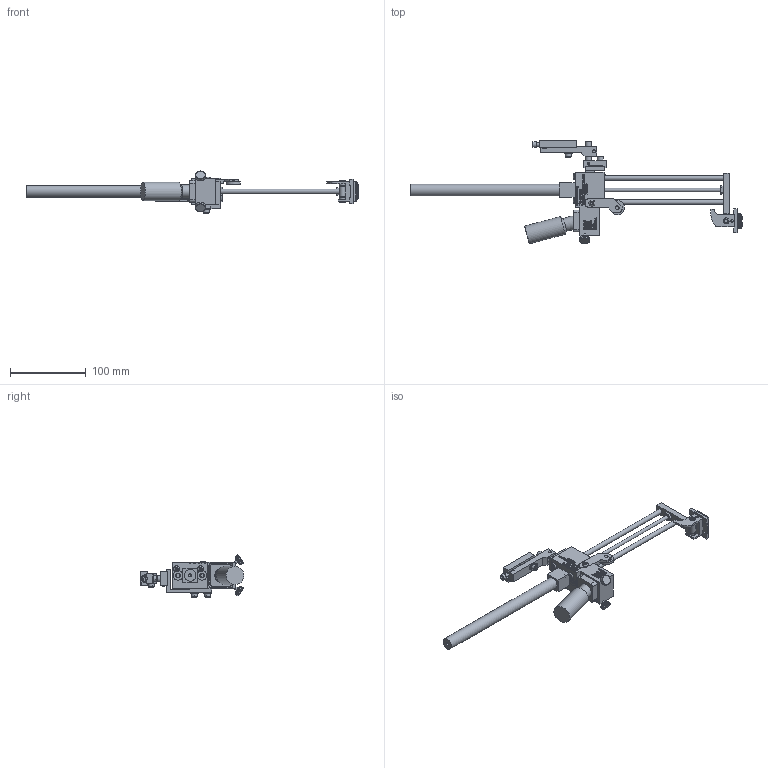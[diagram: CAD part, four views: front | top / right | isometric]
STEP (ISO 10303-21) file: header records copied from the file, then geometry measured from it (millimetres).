
FILE_DESCRIPTION((''),'2;1');
FILE_NAME('C:\Documents and Settings\Ron\My Documents\Inventor\Sprinter Drawing\Machines in Inventor\Model 88\Type\Ext Str\E4\Brkt\Ext\Model 88 ES 4 ext w brkt mod 2012.stp','2012-03-16T14:10:14',('Ron'),(''),'Autodesk Inventor 2011','Autodesk Inventor 2011','');
FILE_SCHEMA(('AUTOMOTIVE_DESIGN { 1 0 10303 214 1 1 1 1 }'));
Length unit declared in the file: inch
Products named in the file (43): Model 88  ES 4  ext w brkt mod 2012; 88 Frame Body; 66 Linear Bearing; Hexagon Socket Button Head Cap Screw - Inch 8 - 32 x 1/4; Hexagon Socket Head Cap Screw - Inch No. 8 - 32 UNC - 1 1/2; 10 Ink Resevior Lock Screw; INK RESERVOIR ASSY; 88 RESERVOIR; 88 Ink Pad; 66 INK BOTTLE; 88 STD Wheel Bractet Assy (prototype); 44 Wheel Retainer; 44 Cam Wheel; 88 Wheel Bracket Arm (prototype); Hexagon Socket Set Screw - Flat Point - Inch 4-48 UNF x 0.19; 8-32x0.25 Hexagon Socket Button Head Cap Screw ANSI/ASME B18.3; E4 Extended; 88 Rod Carrier Extended ES 4; 88 Rod Carrier; Type A - Hexagon Socket Set Screw - Cup Point - Inch 8-32 UNC x 0.32; 66 PIVOT SHAFT; 66 PIVOT SHAFT LOCKING RING; 23 66 invert block; AS 1112 (4)  - Metric M6; 66 Spring; 19 Rod Carrier Set Screws; 88 CLIP FOR MODELS; 88--CLIP plate; Hexagon Socket Set Screw - Flat Point - Inch 6-32 UNC x 0.45; 88 baselock (model sized); 88 baselock STAMP; E4; Model 88 RPB; rpb4; rpb3; rpb-1; rpb2; No. 10-24x0.88 Hexagon socket head cap screw ANSI/ASME B18.3; Type B - Plain Washer (Inch) No. 10 - narrow - Type B; 66 Machine Mounting Pivot Bracket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
Assembly tree (58 placements, depth 4):
  Model 88  ES 4  ext w brkt mod 2012
    88 Frame Body
    66 Linear Bearing  x2
    Hexagon Socket Button Head Cap Screw - Inch 8 - 32 x 1/4  x4
    Hexagon Socket Head Cap Screw - Inch No. 8 - 32 UNC - 1 1/2  x2
    10 Ink Resevior Lock Screw  x2
    INK RESERVOIR ASSY
      88 RESERVOIR
      88 Ink Pad
      66 INK BOTTLE
    88 STD Wheel Bractet Assy (prototype)
      44 Wheel Retainer
      44 Cam Wheel
      88 Wheel Bracket Arm (prototype)
      Hexagon Socket Set Screw - Flat Point - Inch 4-48 UNF x 0.19
    8-32x0.25 Hexagon Socket Button Head Cap Screw ANSI/ASME B18.3
    E4 Extended
    88 Rod Carrier Extended ES 4
      88 Rod Carrier
      Type A - Hexagon Socket Set Screw - Cup Point - Inch 8-32 UNC x 0.32
      66 PIVOT SHAFT
      66 PIVOT SHAFT LOCKING RING  x2
      23 66 invert block
      AS 1112 (4)  - Metric M6
      66 Spring
      19 Rod Carrier Set Screws  x2
      88 CLIP FOR MODELS
        88--CLIP plate
        Hexagon Socket Set Screw - Flat Point - Inch 6-32 UNC x 0.45
        88 baselock (model sized)
        88 baselock STAMP
      E4  x2
    Model 88 RPB
      rpb4
      rpb3
      rpb-1
      rpb2
      No. 10-24x0.88 Hexagon socket head cap screw ANSI/ASME B18.3  x5
      Type B - Plain Washer (Inch) No. 10 - narrow - Type B  x4
      66 Machine Mounting Pivot Bracket
      Pin - Hardened Ground Machine Dowel (Inch) 1/8 x 3/4
      Pin - Hardened Ground Machine Dowel (Inch) 1/8 x 3/8
    10-32 PORTS DECAL
Bounding box: 437.46 x 136.58 x 55.4 mm (x, y, z)
Volume: 226206 mm3; surface area: 107112.6 mm2
Topology: 426 solids, 426 shells, 6402 faces, 15696 edges, 9721 vertices
Faces by surface type: plane 4457, bspline 1294, cylinder 560, cone 68, torus 23
Full cylindrical faces by diameter (mm): 1.143 x1, 2.261 x1, 2.54 x2, 2.642 x1, 2.845 x1, 3.175 x4, 3.2 x1, 3.302 x14, 3.505 x1, 3.556 x1, 3.683 x2, 3.962 x10, 4.064 x2, 4.166 x10, 4.547 x2, 4.699 x3, 4.75 x4, 4.775 x2, 4.826 x8, 4.864 x2, 4.917 x1, 5.055 x1, 5.156 x7, 5.359 x1, 5.556 x1, 6.223 x2, 6.325 x4, 6.35 x5, 6.426 x1, 6.604 x1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
Entity records: 152461 total; most frequent: CARTESIAN_POINT 45345, ORIENTED_EDGE 23846, DIRECTION 17240, EDGE_CURVE 11923, VECTOR 8520, LINE 8520, VERTEX_POINT 7659, EDGE_LOOP 5340
